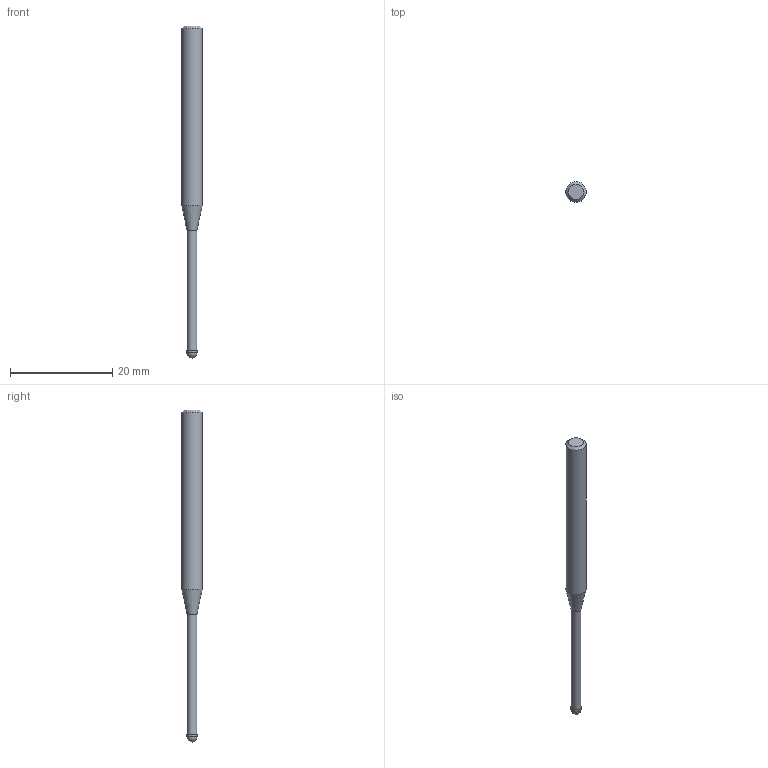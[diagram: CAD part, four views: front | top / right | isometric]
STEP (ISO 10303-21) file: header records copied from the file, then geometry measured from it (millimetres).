
FILE_DESCRIPTION((''),'2;1');
FILE_NAME('C:\Users\nsx150\AppData\Local\Temp\Mastercam 2021\3SYKECWX22\TEMP.step','2021-04-22T10:04:23',(''),(''),'STEP Write','Mastercam 2021 ... CNC Software, Inc.','');
FILE_SCHEMA(('AUTOMOTIVE_DESIGN'));
Length unit declared in the file: millimetre
Products named in the file (1): None
Bounding box: 4 x 4 x 65 mm (x, y, z)
Volume: 548.4 mm3; surface area: 655.3 mm2
Topology: 2 solids, 2 shells, 9 faces, 14 edges, 8 vertices
Faces by surface type: plane 3, cylinder 3, cone 2, sphere 1
Full cylindrical faces by diameter (mm): 1.94 x1, 2 x1, 4 x1
Entity records: 211 total; most frequent: DIRECTION 36, CARTESIAN_POINT 25, AXIS2_PLACEMENT_3D 18, ORIENTED_EDGE 14, EDGE_LOOP 14, STYLED_ITEM 12, ADVANCED_FACE 9, FACE_BOUND 8
